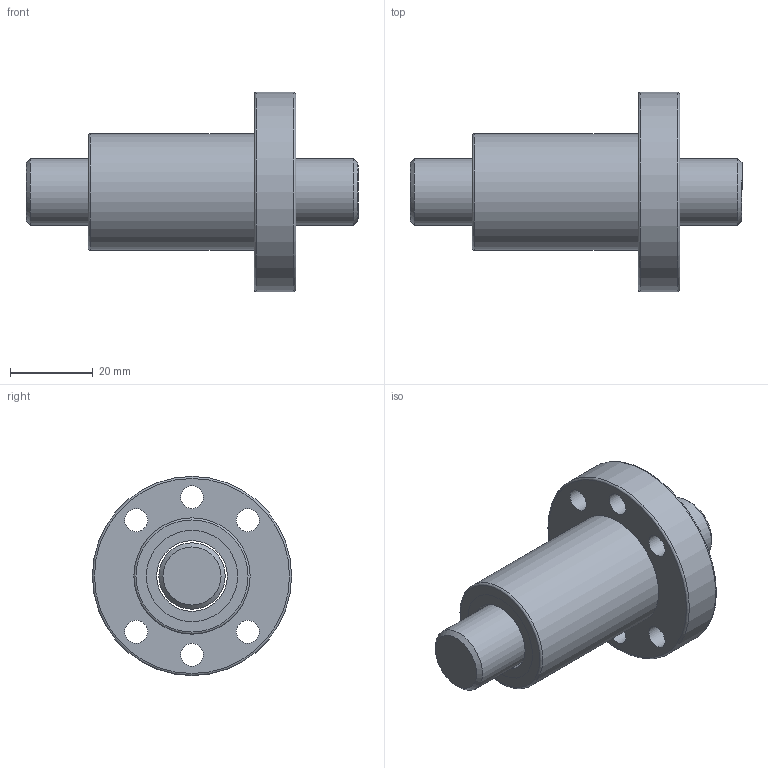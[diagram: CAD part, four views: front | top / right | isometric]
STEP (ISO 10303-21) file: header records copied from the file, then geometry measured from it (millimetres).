
FILE_DESCRIPTION(/* description */ (''),/* implementation_level */ '2;1');
FILE_NAME(/* name */ 'SFU1605',/* time_stamp */ '2007-10-26T13:25:04+08:00',/* author */ (''),/* organization */ (''),/* preprocessor_version */ 'ST-DEVELOPER v9',/* originating_system */ 'EDS PLM SOLUTIONS - UNIGRAPHICS NX 1.0',/* authorisation */ '');
FILE_SCHEMA (('CONFIG_CONTROL_DESIGN'));
Length unit declared in the file: millimetre
Products named in the file (1): FANNDA0400hw
Bounding box: 80 x 48 x 48 mm (x, y, z)
Volume: 45967.2 mm3; surface area: 17886.5 mm2
Topology: 4 solids, 4 shells, 32 faces, 58 edges, 37 vertices
Faces by surface type: cylinder 16, plane 11, torus 3, cone 2
Full cylindrical faces by diameter (mm): 5.5 x6, 16 x1, 17 x3, 22 x4, 28 x1, 48 x1
Entity records: 810 total; most frequent: DIRECTION 140, CARTESIAN_POINT 107, EDGE_LOOP 74, ORIENTED_EDGE 74, AXIS2_PLACEMENT_3D 70, FACE_BOUND 61, VERTEX_POINT 37, EDGE_CURVE 37
